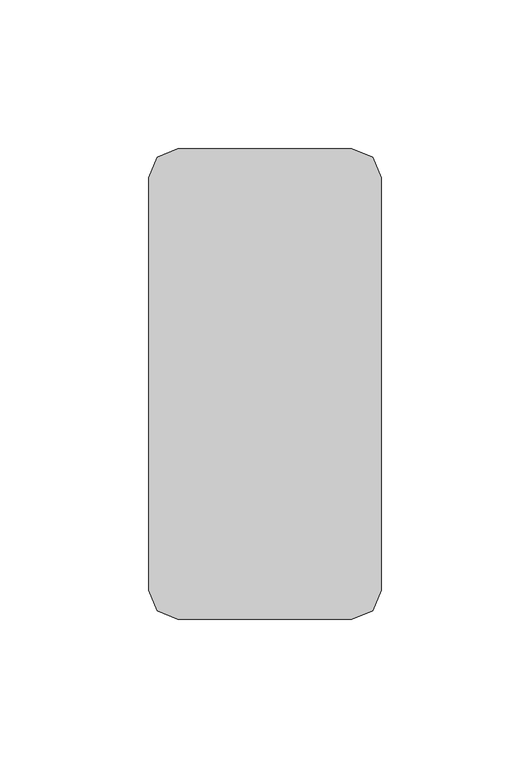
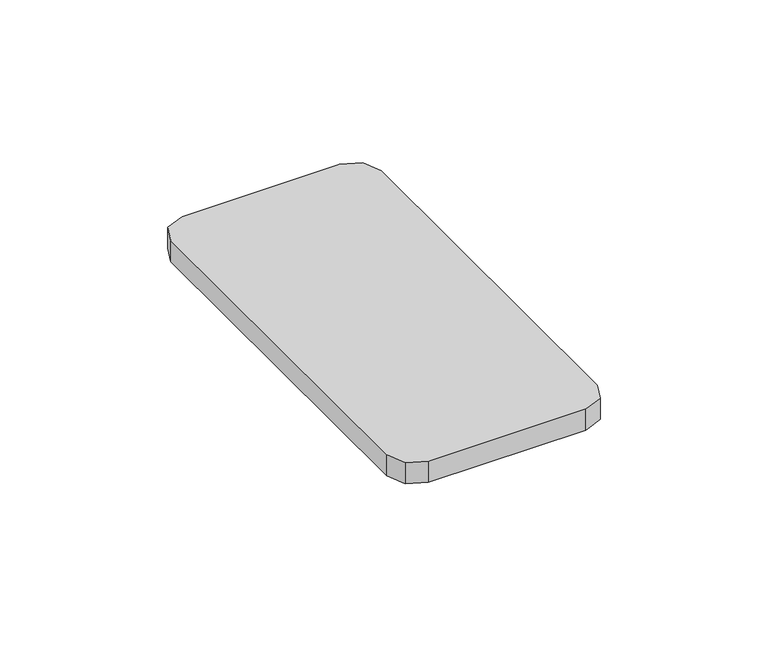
"""IFC4 building model written with IfcOpenShell, lengths in millimetres: geographic element geometry, Enscape AssetDefinition - Smartphone 002 : Enscape AssetDefinition - Smartphone 002."""

import ifcopenshell
import ifcopenshell.guid

model = None  # the IFC model being written
_history = None  # IfcOwnerHistory: only IFC2X3 demands one
_inside = {}  # id of a spatial element -> (the spatial element, [elements in it])
_under = {}  # id of a project, library or spatial element -> (it, [spatial elements below it])
_declared = {}  # id of a project -> (the project, [libraries it declares])
_typed = {}  # id of a type object -> (the type object, [elements of that type])
_made_of = {}  # id of a material, layer set ... -> (it, [elements and type objects made of it])


def new_model(schema):
    """Start an empty IFC model of exactly this schema.

    Asked for "IFC4X3", IfcOpenShell would pick the latest addendum, in which some entities
    have other attributes; the version numbers below select the first issue.
    IFC2X3 requires an IfcOwnerHistory on every rooted entity: one is made here for all.
    """
    global model, _history
    if schema == "IFC4X3":
        model = ifcopenshell.file(schema_version=(4, 3, 0, 0))
    else:
        model = ifcopenshell.file(schema=schema)
    _inside.clear()
    _under.clear()
    _declared.clear()
    _typed.clear()
    _made_of.clear()
    _history = None
    if model.schema == "IFC2X3":
        org = make("IfcOrganization", Name="unknown")
        user = make(
            "IfcPersonAndOrganization",
            ThePerson=make("IfcPerson", FamilyName="unknown"),
            TheOrganization=org,
        )
        app = make(
            "IfcApplication",
            ApplicationDeveloper=org,
            Version="unknown",
            ApplicationFullName="unknown",
            ApplicationIdentifier="unknown",
        )
        _history = make(
            "IfcOwnerHistory",
            OwningUser=user,
            OwningApplication=app,
            ChangeAction="ADDED",
            CreationDate=0,
        )
    return model


def make(cls, **values):
    """One entity of the class cls with the attributes given. An attribute that is None is left unset."""
    return model.create_entity(
        cls, **{name: value for name, value in values.items() if value is not None}
    )


def rooted(cls, **values):
    """An entity with a GlobalId (a new one), such as an element, a storey or a relation."""
    return make(cls, GlobalId=ifcopenshell.guid.new(), OwnerHistory=_history, **values)


def si_unit(unit_type, name, prefix=None):
    """IfcSIUnit, for example si_unit("LENGTHUNIT", "METRE", prefix="MILLI")."""
    return make("IfcSIUnit", UnitType=unit_type, Prefix=prefix, Name=name)


def assignment(units):
    """IfcUnitAssignment: the units of a project."""
    return None if units is None else make("IfcUnitAssignment", Units=units)


def point(xyz):
    """IfcCartesianPoint."""
    return None if xyz is None else make("IfcCartesianPoint", Coordinates=xyz)


def direction(xyz):
    """IfcDirection."""
    return None if xyz is None else make("IfcDirection", DirectionRatios=xyz)


def frame(location, z_axis=None, x_axis=None):
    """IfcAxis2Placement3D, a coordinate frame: its origin and axes. An axis left out is left unset."""
    return make(
        "IfcAxis2Placement3D",
        Location=point(location),
        Axis=direction(z_axis),
        RefDirection=direction(x_axis),
    )


def origin():
    """The frame at (0, 0, 0) with its axes left unset."""
    return frame((0.0, 0.0, 0.0))


def place(relative_to, where):
    """IfcLocalPlacement: puts the frame where relative to a parent placement (None: the world)."""
    return make(
        "IfcLocalPlacement", PlacementRelTo=relative_to, RelativePlacement=where
    )


def context(
    kind, dimensions, precision=None, world=None, true_north=None, identifier=None
):
    """IfcGeometricRepresentationContext, for example the 3D "Model" context."""
    return make(
        "IfcGeometricRepresentationContext",
        ContextIdentifier=identifier,
        ContextType=kind,
        CoordinateSpaceDimension=dimensions,
        Precision=precision,
        WorldCoordinateSystem=world,
        TrueNorth=true_north,
    )


def project(units=None, contexts=None):
    """IfcProject with its units and contexts."""
    return rooted(
        "IfcProject",
        Name="project",
        RepresentationContexts=contexts,
        UnitsInContext=assignment(units),
    )


def spatial(cls, under=None, at=None, **own):
    """A site, building, storey or space (cls), placed at a placement, below another one or the project."""
    s = rooted(cls, ObjectPlacement=at, **own)
    if under is not None:
        _under.setdefault(under.id(), (under, []))[1].append(s)
    return s


def point_list(points):
    """IfcCartesianPointList2D or 3D."""
    cls = (
        "IfcCartesianPointList2D" if len(points[0]) == 2 else "IfcCartesianPointList3D"
    )
    return make(cls, CoordList=points)


def triangles(points, corners, closed=None, point_numbers=None):
    """IfcTriangulatedFaceSet: each triangle names its three corners, points numbered from 1."""
    return make(
        "IfcTriangulatedFaceSet",
        Coordinates=point_list(points),
        Closed=closed,
        CoordIndex=corners,
        PnIndex=point_numbers,
    )


def shape(context_of_items, identifier, shape_type, items):
    """IfcShapeRepresentation: the items that make up one representation, for example the "Body"."""
    return make(
        "IfcShapeRepresentation",
        ContextOfItems=context_of_items,
        RepresentationIdentifier=identifier,
        RepresentationType=shape_type,
        Items=items,
    )


def source(mapping_origin, context_of_items, identifier, shape_type, items):
    """IfcRepresentationMap: a shape defined once, which mapped items show again and again."""
    return make(
        "IfcRepresentationMap",
        MappingOrigin=mapping_origin,
        MappedRepresentation=shape(context_of_items, identifier, shape_type, items),
    )


def transform(
    local_origin,
    x_axis=None,
    y_axis=None,
    z_axis=None,
    scale=None,
    scale2=None,
    scale3=None,
    uniform=True,
):
    """IfcCartesianTransformationOperator3D, or its non-uniform kind. x_axis, y_axis, z_axis: its Axis1, 2, 3."""
    if uniform:
        return make(
            "IfcCartesianTransformationOperator3D",
            Axis1=direction(x_axis),
            Axis2=direction(y_axis),
            LocalOrigin=point(local_origin),
            Scale=scale,
            Axis3=direction(z_axis),
        )
    return make(
        "IfcCartesianTransformationOperator3DnonUniform",
        Axis1=direction(x_axis),
        Axis2=direction(y_axis),
        LocalOrigin=point(local_origin),
        Scale=scale,
        Axis3=direction(z_axis),
        Scale2=scale2,
        Scale3=scale3,
    )


def mapped(mapping_source, mapping_target):
    """IfcMappedItem: shows the shape of a source again, moved by a transform."""
    return make(
        "IfcMappedItem", MappingSource=mapping_source, MappingTarget=mapping_target
    )


def made_of(thing, what):
    """Note that an element or type object is made of a material, layer set ...; save() writes the relation."""
    if what is not None:
        _made_of.setdefault(what.id(), (what, []))[1].append(thing)
    return thing


def element(
    cls,
    number,
    at=None,
    inside=None,
    cuts=None,
    type_object=None,
    material=None,
    context=None,
    identifier="Body",
    shape_type=None,
    held_by="IfcProductDefinitionShape",
    body=None,
    shapes=None,
    **own,
):
    """One element of the class cls, such as IfcWall. Its Tag is "e" and its number.

    at: its placement. inside: the storey or other place that contains it. cuts: it is an
    opening in that element (IfcRelVoidsElement). A single representation is given by context,
    identifier, shape_type and body (its items); several are given by shapes. held_by: the class
    of the entity that holds the representations. save() writes the other relations.
    """
    e = rooted(cls, Tag="e%d" % number, ObjectPlacement=at, **own)
    if body is not None:
        shapes = [shape(context, identifier, shape_type, body)]
    if shapes is not None:
        e.Representation = make(held_by, Representations=shapes)
    if inside is not None:
        _inside.setdefault(inside.id(), (inside, []))[1].append(e)
    if cuts is not None:
        rooted(
            "IfcRelVoidsElement", RelatingBuildingElement=cuts, RelatedOpeningElement=e
        )
    if type_object is not None:
        _typed.setdefault(type_object.id(), (type_object, []))[1].append(e)
    return made_of(e, material)


def aggregate(whole, parts):
    """IfcRelAggregates: a whole, such as a stair, and the parts it consists of."""
    return rooted("IfcRelAggregates", RelatingObject=whole, RelatedObjects=parts)


def save(model, path):
    """Write the relations noted so far, then the file.

    IfcRelAggregates (storeys below a building ...), IfcRelContainedInSpatialStructure (elements
    in a storey), IfcRelDefinesByType, IfcRelAssociatesMaterial and IfcRelDeclares: one each for
    every whole, place, type object, material and project.
    """
    for whole, parts in _under.values():
        aggregate(whole, parts)
    for where, things in _inside.values():
        rooted(
            "IfcRelContainedInSpatialStructure",
            RelatedElements=things,
            RelatingStructure=where,
        )
    for kind, things in _typed.values():
        rooted("IfcRelDefinesByType", RelatedObjects=things, RelatingType=kind)
    for what, things in _made_of.values():
        rooted("IfcRelAssociatesMaterial", RelatedObjects=things, RelatingMaterial=what)
    for by, libraries in _declared.values():
        rooted("IfcRelDeclares", RelatingContext=by, RelatedDefinitions=libraries)
    model.write(path)


def geographic_element_bc1c03e3(model_context):
    return source(origin(), model_context, "Body", "Tessellation", [
        triangles([(-29.0290012, 76.0389997, 0.0), (-29.0290012, 76.0389997, 8.2609999), (36.3329976, 73.1759976, 0.0), (-38.8039995, 66.2640013, 8.2609999), (36.3329976, 73.1759976, 8.2609999), (29.420999, 76.0389997, 8.2609999), (-35.9410021, 73.1759976, 8.2609999), (-35.9410021, 73.1759976, 0.0), (-38.8039995, 66.2640013, 0.0), (36.3329976, -79.0930011, 0.0), (39.1959996, -72.1810002, 0.0), (39.1959996, -72.1810002, 8.2609999), (-29.0290012, -81.9559986, 0.0), (29.420999, -81.9559986, 0.0), (29.420999, -81.9559986, 8.2609999), (36.3329976, -79.0930011, 8.2609999), (-29.0290012, -81.9559986, 8.2609999), (-35.9410021, -79.0930011, 0.0), (-35.9410021, -79.0930011, 8.2609999), (-38.8039995, -72.1810002, 8.2609999), (-38.8039995, -72.1810002, 0.0), (39.1959996, 66.2640013, 8.2609999), (39.1959996, 66.2640013, 0.0), (29.420999, 76.0389997, 0.0)], [[23, 3, 5], [24, 3, 23], [1, 24, 23], [23, 5, 22], [12, 23, 22], [12, 22, 20], [19, 20, 21], [19, 21, 18], [13, 18, 21], [20, 19, 17], [17, 12, 20], [17, 19, 18], [17, 18, 13], [17, 15, 12], [15, 16, 12], [16, 15, 14], [17, 13, 14], [14, 13, 21], [17, 14, 15], [12, 16, 10], [16, 14, 10], [12, 11, 23], [11, 10, 14], [14, 21, 11], [12, 10, 11], [23, 11, 9], [21, 9, 11], [9, 1, 23], [9, 8, 1], [4, 20, 22], [4, 9, 21], [4, 8, 9], [4, 21, 20], [4, 7, 8], [7, 1, 8], [2, 7, 4], [7, 2, 1], [6, 2, 4], [22, 5, 6], [3, 24, 6], [6, 24, 1], [22, 6, 4], [3, 6, 5], [6, 1, 2]]),
    ])


if __name__ == "__main__":
    model = new_model("IFC4")
    model_context = context("Model", 3, world=origin())
    ifc_project = project(units=[si_unit("LENGTHUNIT", "METRE", prefix="MILLI")], contexts=[model_context])
    site = spatial("IfcSite", under=ifc_project)
    building = spatial("IfcBuilding", under=site)
    placement = place(None, origin())
    geographic_element_shape = geographic_element_bc1c03e3(model_context)
    element("IfcGeographicElement", 1, ObjectType="Enscape AssetDefinition - Smartphone 002 : Enscape AssetDefinition - Smartphone 002", at=placement, inside=building, context=model_context, shape_type="MappedRepresentation", body=[
        mapped(geographic_element_shape, transform((0.0, 0.0, 0.0), x_axis=(1.0, 0.0, 0.0), y_axis=(0.0, 1.0, 0.0), z_axis=(0.0, 0.0, 1.0))),
    ])
    save(model, "model.ifc")
